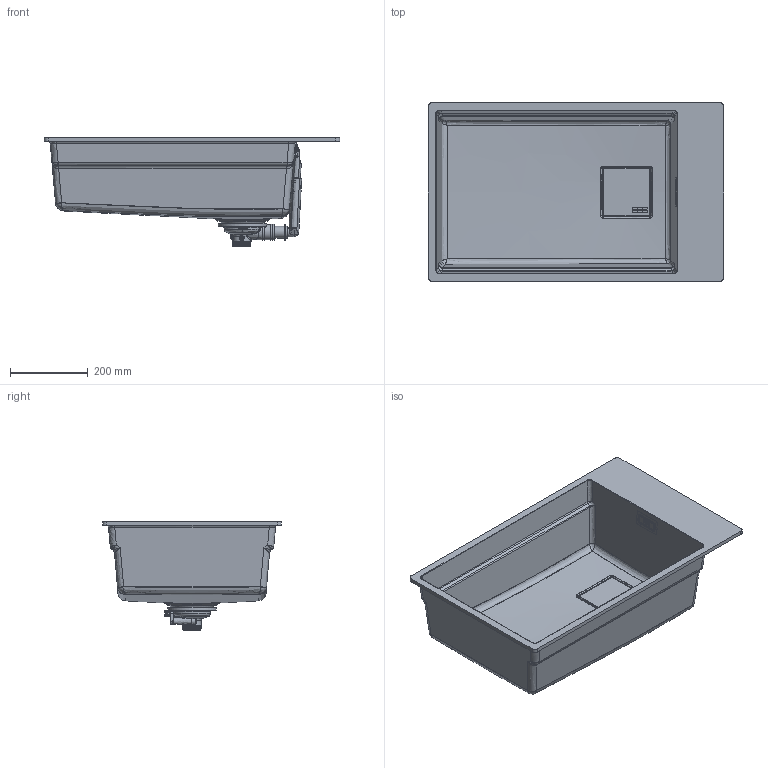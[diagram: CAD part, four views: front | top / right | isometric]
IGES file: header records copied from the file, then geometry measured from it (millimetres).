
Global section: file name: F:\_CONVERSIONE_CAD_2024_2025\_2024_GLB\Novelties_2024\Sinks\KUBUS-2\Caricati\125.0706.705 3D001_Sinks_Kubus-2_KNG-110-62\3D001_Sinks_Kubus-2_KNG-110-62.igs; native system: Rhinoceros ( Jul 12 2024 ); preprocessor: Trout Lake IGES 012 Jul 12 2024; date: 241118.085054; units: millimetre
Bounding box: 760 x 460 x 280.16 mm (x, y, z)
Surface area: 1511736.2 mm2 (no closed solid volume)
Topology: 0 solids, 0 shells, 2626 faces, 15795 edges, 15720 vertices
Faces by surface type: bspline 2626
